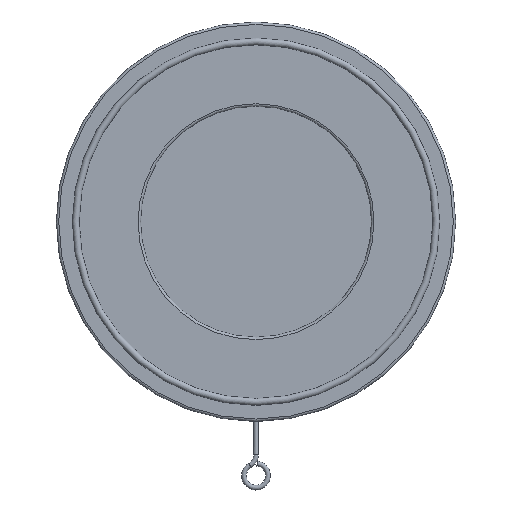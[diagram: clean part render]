
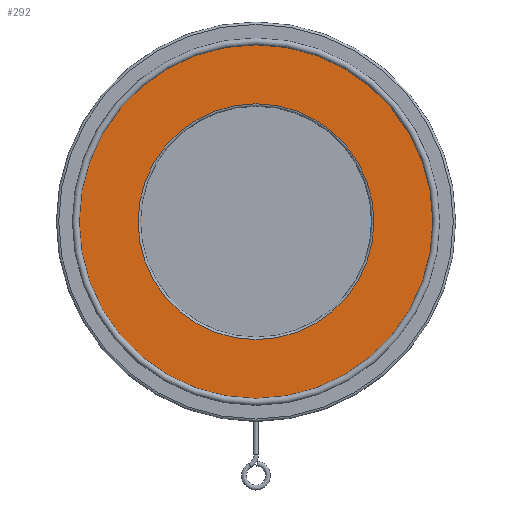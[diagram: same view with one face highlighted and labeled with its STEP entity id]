
A CAD part, top view. The second image highlights one B-rep face of the part: STEP entity #292.
In plain terms, the highlighted planar face has unit normal (0, 0, 1).
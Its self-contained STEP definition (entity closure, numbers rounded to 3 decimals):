
#292 = ADVANCED_FACE( '', ( #800, #801 ), #802, .F. );
#800 = FACE_BOUND( '', #1577, .T. );
#801 = FACE_OUTER_BOUND( '', #1578, .T. );
#802 = PLANE( '', #1579 );
#1577 = EDGE_LOOP( '', ( #2620 ) );
#1578 = EDGE_LOOP( '', ( #2621 ) );
#1579 = AXIS2_PLACEMENT_3D( '', #2622, #2623, #2624 );
#2620 = ORIENTED_EDGE( '', *, *, #5205, .T. );
#2621 = ORIENTED_EDGE( '', *, *, #5206, .T. );
#2622 = CARTESIAN_POINT( '', ( 0., 0., 13. ) );
#2623 = DIRECTION( '', ( 0., 0., -1. ) );
#2624 = DIRECTION( '', ( -1., 0., 0. ) );
#5205 = EDGE_CURVE( '', #6073, #6073, #6074, .T. );
#5206 = EDGE_CURVE( '', #6075, #6075, #6076, .T. );
#6073 = VERTEX_POINT( '', #7477 );
#6074 = CIRCLE( '', #7478, 98. );
#6075 = VERTEX_POINT( '', #7479 );
#6076 = CIRCLE( '', #7480, 147.022 );
#7477 = CARTESIAN_POINT( '', ( -98., 0., 13. ) );
#7478 = AXIS2_PLACEMENT_3D( '', #10530, #10531, #10532 );
#7479 = CARTESIAN_POINT( '', ( 147.022, 0., 13. ) );
#7480 = AXIS2_PLACEMENT_3D( '', #10533, #10534, #10535 );
#10530 = CARTESIAN_POINT( '', ( 0., 0., 13. ) );
#10531 = DIRECTION( '', ( 0., 0., -1. ) );
#10532 = DIRECTION( '', ( -1., 0., 0. ) );
#10533 = CARTESIAN_POINT( '', ( 0., 0., 13. ) );
#10534 = DIRECTION( '', ( 0., 0., 1. ) );
#10535 = DIRECTION( '', ( 1., 0., 0. ) );
